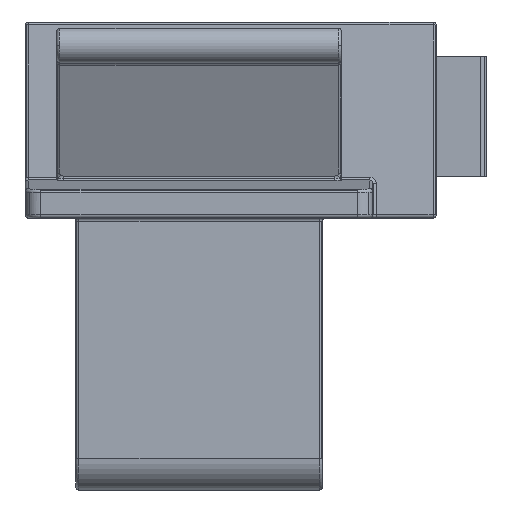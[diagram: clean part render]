
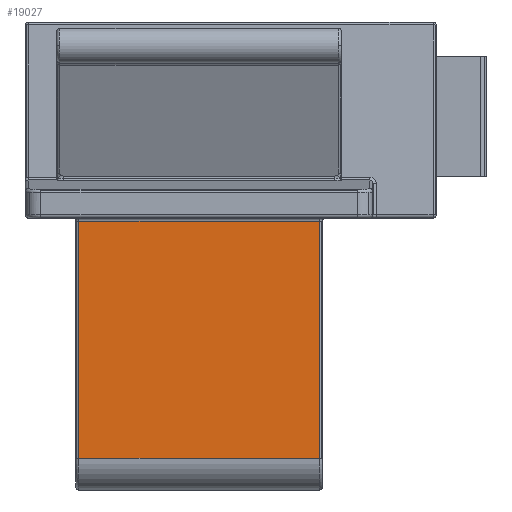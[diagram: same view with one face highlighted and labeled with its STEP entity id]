
A CAD part, left-side view. The second image highlights one B-rep face of the part: STEP entity #19027.
In plain terms, the highlighted free-form (B-spline) face has degree [1, 1] with [2, 2] control points.
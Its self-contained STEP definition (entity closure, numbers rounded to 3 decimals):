
#7454=CARTESIAN_POINT('',(16.0,-7.6,3.8));
#7455=VERTEX_POINT('',#7454);
#7463=CARTESIAN_POINT('',(16.0,-0.1,3.8));
#7464=VERTEX_POINT('',#7463);
#7465=CARTESIAN_POINT('',(16.0,-7.6,3.8));
#7466=DIRECTION('',(0.0,1.0,0.0));
#7467=VECTOR('',#7466,7.5);
#7468=LINE('',#7465,#7467);
#7469=EDGE_CURVE('',#7455,#7464,#7468,.T.);
#7616=CARTESIAN_POINT('',(16.0,-0.1,-3.8));
#7617=VERTEX_POINT('',#7616);
#7625=CARTESIAN_POINT('',(16.0,-7.6,-3.8));
#7626=VERTEX_POINT('',#7625);
#7627=CARTESIAN_POINT('',(16.0,-0.1,-3.8));
#7628=DIRECTION('',(0.0,-1.0,0.0));
#7629=VECTOR('',#7628,7.5);
#7630=LINE('',#7627,#7629);
#7631=EDGE_CURVE('',#7617,#7626,#7630,.T.);
#18007=CARTESIAN_POINT('',(16.0,-0.1,3.8));
#18008=DIRECTION('',(0.0,0.0,-1.0));
#18009=VECTOR('',#18008,7.6);
#18010=LINE('',#18007,#18009);
#18011=EDGE_CURVE('',#7464,#7617,#18010,.T.);
#19000=CARTESIAN_POINT('',(16.0,-7.6,-3.8));
#19001=DIRECTION('',(0.0,0.0,1.0));
#19002=VECTOR('',#19001,7.6);
#19003=LINE('',#19000,#19002);
#19004=EDGE_CURVE('',#7626,#7455,#19003,.T.);
#19016=CARTESIAN_POINT('',(16.0,-0.1,-3.8));
#19017=CARTESIAN_POINT('',(16.0,-0.1,3.8));
#19018=CARTESIAN_POINT('',(16.0,-7.6,-3.8));
#19019=CARTESIAN_POINT('',(16.0,-7.6,3.8));
#19020=B_SPLINE_SURFACE_WITH_KNOTS('',1,1,((#19016,#19018),(#19017,#19019)),.UNSPECIFIED.,.F.,.F.,.U.,(2,2),(2,2),(0.0,7.6),(0.0,7.5),.UNSPECIFIED.);
#19021=ORIENTED_EDGE('',*,*,#7631,.F.);
#19022=ORIENTED_EDGE('',*,*,#18011,.F.);
#19023=ORIENTED_EDGE('',*,*,#7469,.F.);
#19024=ORIENTED_EDGE('',*,*,#19004,.F.);
#19025=EDGE_LOOP('',(#19021,#19022,#19023,#19024));
#19026=FACE_OUTER_BOUND('',#19025,.T.);
#19027=ADVANCED_FACE('',(#19026),#19020,.T.);
